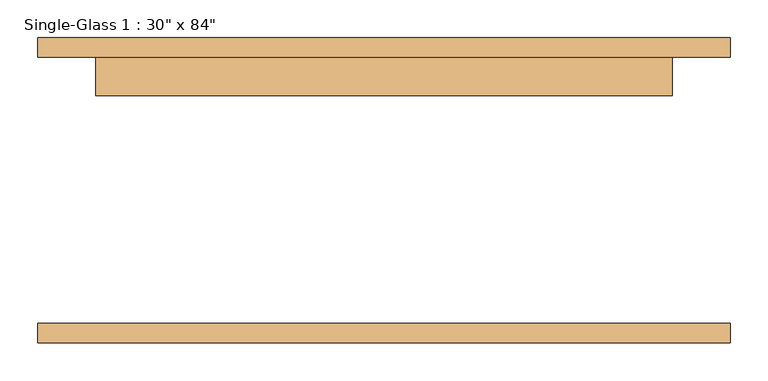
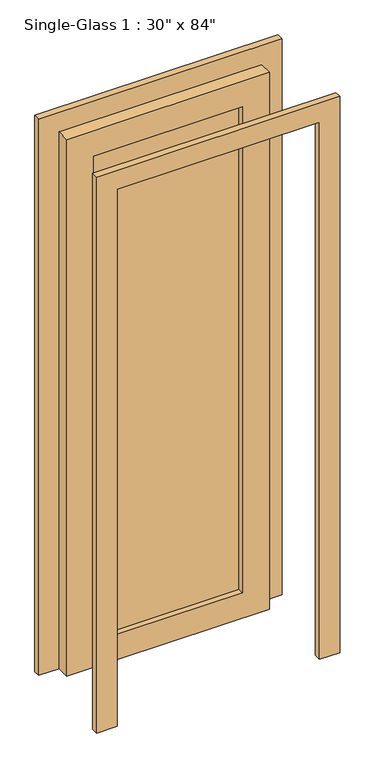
"""IFC4 building model written with IfcOpenShell, lengths in millimetres: door geometry."""

import ifcopenshell
import ifcopenshell.guid

model = None  # the IFC model being written
_history = None  # IfcOwnerHistory: only IFC2X3 demands one
_inside = {}  # id of a spatial element -> (the spatial element, [elements in it])
_under = {}  # id of a project, library or spatial element -> (it, [spatial elements below it])
_declared = {}  # id of a project -> (the project, [libraries it declares])
_typed = {}  # id of a type object -> (the type object, [elements of that type])
_made_of = {}  # id of a material, layer set ... -> (it, [elements and type objects made of it])


def new_model(schema):
    """Start an empty IFC model of exactly this schema.

    Asked for "IFC4X3", IfcOpenShell would pick the latest addendum, in which some entities
    have other attributes; the version numbers below select the first issue.
    IFC2X3 requires an IfcOwnerHistory on every rooted entity: one is made here for all.
    """
    global model, _history
    if schema == "IFC4X3":
        model = ifcopenshell.file(schema_version=(4, 3, 0, 0))
    else:
        model = ifcopenshell.file(schema=schema)
    _inside.clear()
    _under.clear()
    _declared.clear()
    _typed.clear()
    _made_of.clear()
    _history = None
    if model.schema == "IFC2X3":
        org = make("IfcOrganization", Name="unknown")
        user = make(
            "IfcPersonAndOrganization",
            ThePerson=make("IfcPerson", FamilyName="unknown"),
            TheOrganization=org,
        )
        app = make(
            "IfcApplication",
            ApplicationDeveloper=org,
            Version="unknown",
            ApplicationFullName="unknown",
            ApplicationIdentifier="unknown",
        )
        _history = make(
            "IfcOwnerHistory",
            OwningUser=user,
            OwningApplication=app,
            ChangeAction="ADDED",
            CreationDate=0,
        )
    return model


def make(cls, **values):
    """One entity of the class cls with the attributes given. An attribute that is None is left unset."""
    return model.create_entity(
        cls, **{name: value for name, value in values.items() if value is not None}
    )


def rooted(cls, **values):
    """An entity with a GlobalId (a new one), such as an element, a storey or a relation."""
    return make(cls, GlobalId=ifcopenshell.guid.new(), OwnerHistory=_history, **values)


def si_unit(unit_type, name, prefix=None):
    """IfcSIUnit, for example si_unit("LENGTHUNIT", "METRE", prefix="MILLI")."""
    return make("IfcSIUnit", UnitType=unit_type, Prefix=prefix, Name=name)


def assignment(units):
    """IfcUnitAssignment: the units of a project."""
    return None if units is None else make("IfcUnitAssignment", Units=units)


def point(xyz):
    """IfcCartesianPoint."""
    return None if xyz is None else make("IfcCartesianPoint", Coordinates=xyz)


def direction(xyz):
    """IfcDirection."""
    return None if xyz is None else make("IfcDirection", DirectionRatios=xyz)


def frame(location, z_axis=None, x_axis=None):
    """IfcAxis2Placement3D, a coordinate frame: its origin and axes. An axis left out is left unset."""
    return make(
        "IfcAxis2Placement3D",
        Location=point(location),
        Axis=direction(z_axis),
        RefDirection=direction(x_axis),
    )


def origin():
    """The frame at (0, 0, 0) with its axes left unset."""
    return frame((0.0, 0.0, 0.0))


def place(relative_to, where):
    """IfcLocalPlacement: puts the frame where relative to a parent placement (None: the world)."""
    return make(
        "IfcLocalPlacement", PlacementRelTo=relative_to, RelativePlacement=where
    )


def context(
    kind, dimensions, precision=None, world=None, true_north=None, identifier=None
):
    """IfcGeometricRepresentationContext, for example the 3D "Model" context."""
    return make(
        "IfcGeometricRepresentationContext",
        ContextIdentifier=identifier,
        ContextType=kind,
        CoordinateSpaceDimension=dimensions,
        Precision=precision,
        WorldCoordinateSystem=world,
        TrueNorth=true_north,
    )


def project(units=None, contexts=None):
    """IfcProject with its units and contexts."""
    return rooted(
        "IfcProject",
        Name="project",
        RepresentationContexts=contexts,
        UnitsInContext=assignment(units),
    )


def spatial(cls, under=None, at=None, **own):
    """A site, building, storey or space (cls), placed at a placement, below another one or the project."""
    s = rooted(cls, ObjectPlacement=at, **own)
    if under is not None:
        _under.setdefault(under.id(), (under, []))[1].append(s)
    return s


def polyline(points):
    """IfcPolyline through the points."""
    return make("IfcPolyline", Points=[point(p) for p in points])


def outline(outer, holes=None, kind="AREA"):
    """IfcArbitraryClosedProfileDef: a profile drawn as a closed curve; with holes, ...WithVoids."""
    if holes is None:
        return make("IfcArbitraryClosedProfileDef", ProfileType=kind, OuterCurve=outer)
    return make(
        "IfcArbitraryProfileDefWithVoids",
        ProfileType=kind,
        OuterCurve=outer,
        InnerCurves=holes,
    )


def extrude(swept, where, along, depth):
    """IfcExtrudedAreaSolid: the profile swept, set in the frame where, extruded along a direction by depth."""
    return make(
        "IfcExtrudedAreaSolid",
        SweptArea=swept,
        Position=where,
        ExtrudedDirection=direction(along),
        Depth=depth,
    )


def shape(context_of_items, identifier, shape_type, items):
    """IfcShapeRepresentation: the items that make up one representation, for example the "Body"."""
    return make(
        "IfcShapeRepresentation",
        ContextOfItems=context_of_items,
        RepresentationIdentifier=identifier,
        RepresentationType=shape_type,
        Items=items,
    )


def source(mapping_origin, context_of_items, identifier, shape_type, items):
    """IfcRepresentationMap: a shape defined once, which mapped items show again and again."""
    return make(
        "IfcRepresentationMap",
        MappingOrigin=mapping_origin,
        MappedRepresentation=shape(context_of_items, identifier, shape_type, items),
    )


def transform(
    local_origin,
    x_axis=None,
    y_axis=None,
    z_axis=None,
    scale=None,
    scale2=None,
    scale3=None,
    uniform=True,
):
    """IfcCartesianTransformationOperator3D, or its non-uniform kind. x_axis, y_axis, z_axis: its Axis1, 2, 3."""
    if uniform:
        return make(
            "IfcCartesianTransformationOperator3D",
            Axis1=direction(x_axis),
            Axis2=direction(y_axis),
            LocalOrigin=point(local_origin),
            Scale=scale,
            Axis3=direction(z_axis),
        )
    return make(
        "IfcCartesianTransformationOperator3DnonUniform",
        Axis1=direction(x_axis),
        Axis2=direction(y_axis),
        LocalOrigin=point(local_origin),
        Scale=scale,
        Axis3=direction(z_axis),
        Scale2=scale2,
        Scale3=scale3,
    )


def mapped(mapping_source, mapping_target):
    """IfcMappedItem: shows the shape of a source again, moved by a transform."""
    return make(
        "IfcMappedItem", MappingSource=mapping_source, MappingTarget=mapping_target
    )


def made_of(thing, what):
    """Note that an element or type object is made of a material, layer set ...; save() writes the relation."""
    if what is not None:
        _made_of.setdefault(what.id(), (what, []))[1].append(thing)
    return thing


def element(
    cls,
    number,
    at=None,
    inside=None,
    cuts=None,
    type_object=None,
    material=None,
    context=None,
    identifier="Body",
    shape_type=None,
    held_by="IfcProductDefinitionShape",
    body=None,
    shapes=None,
    **own,
):
    """One element of the class cls, such as IfcWall. Its Tag is "e" and its number.

    at: its placement. inside: the storey or other place that contains it. cuts: it is an
    opening in that element (IfcRelVoidsElement). A single representation is given by context,
    identifier, shape_type and body (its items); several are given by shapes. held_by: the class
    of the entity that holds the representations. save() writes the other relations.
    """
    e = rooted(cls, Tag="e%d" % number, ObjectPlacement=at, **own)
    if body is not None:
        shapes = [shape(context, identifier, shape_type, body)]
    if shapes is not None:
        e.Representation = make(held_by, Representations=shapes)
    if inside is not None:
        _inside.setdefault(inside.id(), (inside, []))[1].append(e)
    if cuts is not None:
        rooted(
            "IfcRelVoidsElement", RelatingBuildingElement=cuts, RelatedOpeningElement=e
        )
    if type_object is not None:
        _typed.setdefault(type_object.id(), (type_object, []))[1].append(e)
    return made_of(e, material)


def aggregate(whole, parts):
    """IfcRelAggregates: a whole, such as a stair, and the parts it consists of."""
    return rooted("IfcRelAggregates", RelatingObject=whole, RelatedObjects=parts)


def save(model, path):
    """Write the relations noted so far, then the file.

    IfcRelAggregates (storeys below a building ...), IfcRelContainedInSpatialStructure (elements
    in a storey), IfcRelDefinesByType, IfcRelAssociatesMaterial and IfcRelDeclares: one each for
    every whole, place, type object, material and project.
    """
    for whole, parts in _under.values():
        aggregate(whole, parts)
    for where, things in _inside.values():
        rooted(
            "IfcRelContainedInSpatialStructure",
            RelatedElements=things,
            RelatingStructure=where,
        )
    for kind, things in _typed.values():
        rooted("IfcRelDefinesByType", RelatedObjects=things, RelatingType=kind)
    for what, things in _made_of.values():
        rooted("IfcRelAssociatesMaterial", RelatedObjects=things, RelatingMaterial=what)
    for by, libraries in _declared.values():
        rooted("IfcRelDeclares", RelatingContext=by, RelatedDefinitions=libraries)
    model.write(path)


def door_45ea9bca(model_context):
    return source(origin(), model_context, "Body", "SweptSolid", [
        extrude(outline(polyline([(2133.6, 381.0), (0.0, 381.0), (0.0, 457.2), (2209.8, 457.2), (2209.8, -457.2), (0.0, -457.2), (0.0, -381.0), (2133.6, -381.0), (2133.6, 381.0)])), frame((0.0, -201.6125, 0.0), z_axis=(0.0, 1.0, 0.0), x_axis=(0.0, 0.0, 1.0)), (0.0, 0.0, 1.0), 25.4),
        extrude(outline(polyline([(2133.6, 381.0), (0.0, 381.0), (0.0, 457.2), (2209.8, 457.2), (2209.8, -457.2), (0.0, -457.2), (0.0, -381.0), (2133.6, -381.0), (2133.6, 381.0)])), frame((0.0, 176.2125, 0.0), z_axis=(0.0, 1.0, 0.0), x_axis=(0.0, 0.0, 1.0)), (0.0, 0.0, 1.0), 25.4),
        extrude(outline(polyline([(279.4, 147.6375), (-279.4, 147.6375), (-279.4, 153.9875), (279.4, 153.9875), (279.4, 147.6375)])), frame((0.0, 0.0, 101.6), z_axis=(0.0, 0.0, 1.0), x_axis=(1.0, 0.0, 0.0)), (0.0, 0.0, 1.0), 1930.4),
        extrude(outline(polyline([(2133.6, 381.0), (2133.6, -381.0), (0.0, -381.0), (0.0, 381.0), (2133.6, 381.0)]), holes=[polyline([(2032.0, -279.4), (2032.0, 279.4), (101.6, 279.4), (101.6, -279.4), (2032.0, -279.4)])]), frame((0.0, 125.4125, 0.0), z_axis=(0.0, 1.0, 0.0), x_axis=(0.0, 0.0, 1.0)), (0.0, 0.0, 1.0), 50.8),
    ])


if __name__ == "__main__":
    model = new_model("IFC4")
    model_context = context("Model", 3, world=origin())
    ifc_project = project(units=[si_unit("LENGTHUNIT", "METRE", prefix="MILLI")], contexts=[model_context])
    site = spatial("IfcSite", under=ifc_project)
    building = spatial("IfcBuilding", under=site)
    placement = place(None, origin())
    door_shape = door_45ea9bca(model_context)
    element("IfcDoor", 1, ObjectType="Single-Glass 1 : 30\" x 84\"", at=placement, inside=building, context=model_context, shape_type="MappedRepresentation", body=[
        mapped(door_shape, transform((0.0, 0.0, 0.0), x_axis=(1.0, 0.0, 0.0), y_axis=(0.0, 1.0, 0.0), z_axis=(0.0, 0.0, 1.0))),
    ])
    save(model, "model.ifc")
